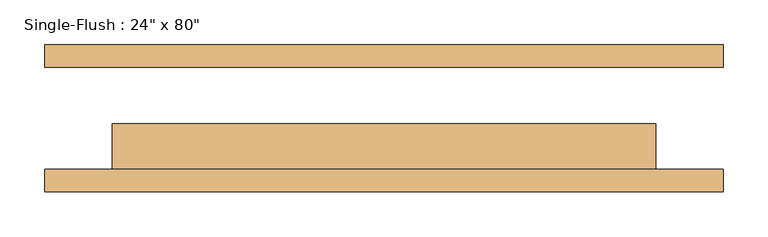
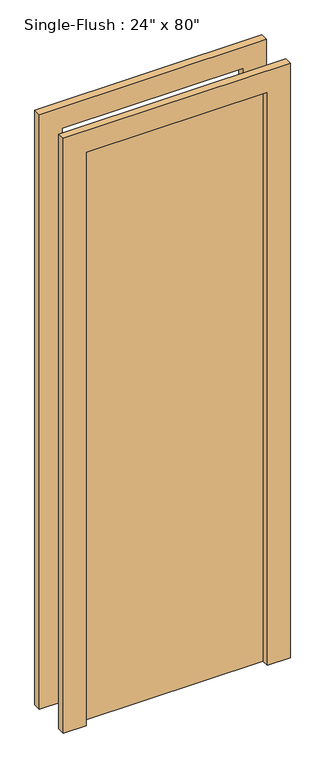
"""IFC4 building model written with IfcOpenShell, lengths in millimetres: door geometry."""

from ifc_helpers import new_model, si_unit, frame, origin, origin_with_axes, place, context, project, spatial, polyline, outline, extrude, source, transform, mapped, element, save


def door_e2285e44(model_context):
    return source(origin(), model_context, "Body", "SweptSolid", [
        extrude(outline(polyline([(2108.2, -381.0), (0.0, -381.0), (0.0, -304.8), (2032.0, -304.8), (2032.0, 304.8), (0.0, 304.8), (0.0, 381.0), (2108.2, 381.0), (2108.2, -381.0)])), frame((0.0, -82.55, 0.0), z_axis=(0.0, 1.0, 0.0), x_axis=(0.0, 0.0, 1.0)), (0.0, 0.0, 1.0), 25.4),
        extrude(outline(polyline([(2108.2, 381.0), (2108.2, -381.0), (0.0, -381.0), (0.0, -304.8), (2032.0, -304.8), (2032.0, 304.8), (0.0, 304.8), (0.0, 381.0), (2108.2, 381.0)])), frame((0.0, 57.15, 0.0), z_axis=(0.0, 1.0, 0.0), x_axis=(0.0, 0.0, 1.0)), (0.0, 0.0, 1.0), 25.4),
        extrude(outline(polyline([(304.8, -6.35), (304.8, -57.15), (-304.8, -57.15), (-304.8, -6.35), (304.8, -6.35)])), origin_with_axes(), (0.0, 0.0, 1.0), 2032.0),
    ])


if __name__ == "__main__":
    model = new_model("IFC4")
    model_context = context("Model", 3, world=origin())
    ifc_project = project(units=[si_unit("LENGTHUNIT", "METRE", prefix="MILLI")], contexts=[model_context])
    site = spatial("IfcSite", under=ifc_project)
    building = spatial("IfcBuilding", under=site)
    placement = place(None, origin())
    door_shape = door_e2285e44(model_context)
    element("IfcDoor", 1, ObjectType="Single-Flush : 24\" x 80\"", at=placement, inside=building, context=model_context, shape_type="MappedRepresentation", body=[
        mapped(door_shape, transform((0.0, 0.0, 0.0), x_axis=(1.0, 0.0, 0.0), y_axis=(0.0, 1.0, 0.0), z_axis=(0.0, 0.0, 1.0))),
    ])
    save(model, "model.ifc")
